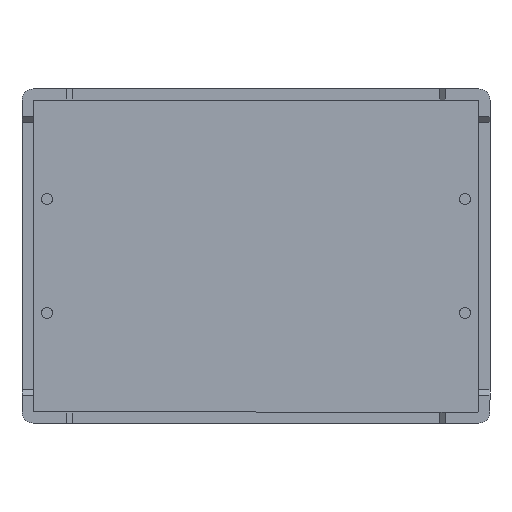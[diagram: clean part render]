
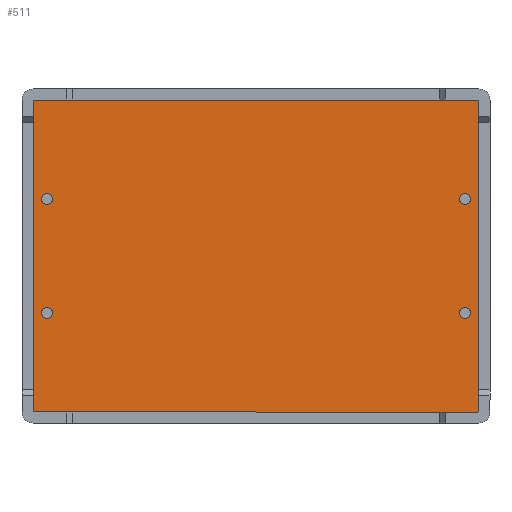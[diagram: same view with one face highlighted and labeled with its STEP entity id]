
A CAD part, front view. The second image highlights one B-rep face of the part: STEP entity #511.
In plain terms, the highlighted planar face has unit normal (0, -1, 0).
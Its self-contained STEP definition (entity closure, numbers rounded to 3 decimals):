
#16 = CARTESIAN_POINT ( 'NONE',  ( 19.9, 1., -14. ) ) ;
#24 = EDGE_CURVE ( 'NONE', #3195, #2917, #1218, .T. ) ;
#68 = EDGE_CURVE ( 'NONE', #3427, #2869, #1055, .T. ) ;
#91 = EDGE_CURVE ( 'NONE', #4298, #3296, #886, .T. ) ;
#126 = CIRCLE ( 'NONE', #2901, 0.5 ) ;
#146 = EDGE_CURVE ( 'NONE', #1792, #3026, #713, .T. ) ;
#172 = EDGE_CURVE ( 'NONE', #2814, #2207, #634, .T. ) ;
#182 = EDGE_CURVE ( 'NONE', #2458, #1996, #653, .T. ) ;
#187 = EDGE_CURVE ( 'NONE', #3961, #2651, #583, .T. ) ;
#192 = EDGE_CURVE ( 'NONE', #4487, #1514, #566, .T. ) ;
#197 = EDGE_CURVE ( 'NONE', #3026, #4298, #523, .T. ) ;
#203 = EDGE_CURVE ( 'NONE', #3296, #3427, #517, .T. ) ;
#211 = EDGE_CURVE ( 'NONE', #2869, #3195, #474, .T. ) ;
#217 = EDGE_CURVE ( 'NONE', #2917, #1792, #501, .T. ) ;
#270 = CARTESIAN_POINT ( 'NONE',  ( 0., 1., 0. ) ) ;
#333 = DIRECTION ( 'NONE',  ( 0., -1., 0. ) ) ;
#337 = CARTESIAN_POINT ( 'NONE',  ( -20., 1., -13.9 ) ) ;
#414 = DIRECTION ( 'NONE',  ( 0., 0., -1. ) ) ;
#474 = CIRCLE ( 'NONE', #2332, 0.1 ) ;
#490 = AXIS2_PLACEMENT_3D ( 'NONE', #3137, #3134, #3124 ) ;
#501 = CIRCLE ( 'NONE', #2563, 0.1 ) ;
#511 = ADVANCED_FACE ( 'NONE', ( #1436, #1254, #1632, #1269, #1421 ), #3163, .T. ) ;
#517 = CIRCLE ( 'NONE', #2097, 0.1 ) ;
#523 = CIRCLE ( 'NONE', #1858, 0.1 ) ;
#566 = CIRCLE ( 'NONE', #1621, 0.5 ) ;
#583 = CIRCLE ( 'NONE', #1122, 0.5 ) ;
#634 = CIRCLE ( 'NONE', #490, 0.5 ) ;
#645 = CIRCLE ( 'NONE', #680, 0.5 ) ;
#653 = CIRCLE ( 'NONE', #834, 0.5 ) ;
#662 = DIRECTION ( 'NONE',  ( 1., 0., 0. ) ) ;
#680 = AXIS2_PLACEMENT_3D ( 'NONE', #1954, #4160, #2315 ) ;
#688 = VECTOR ( 'NONE', #3335, 1000. ) ;
#699 = CARTESIAN_POINT ( 'NONE',  ( 18.75, 1., -4.6 ) ) ;
#713 = LINE ( 'NONE', #3358, #688 ) ;
#803 = CARTESIAN_POINT ( 'NONE',  ( -18.75, 1., 5.6 ) ) ;
#834 = AXIS2_PLACEMENT_3D ( 'NONE', #3113, #3101, #3097 ) ;
#872 = VECTOR ( 'NONE', #662, 1000. ) ;
#886 = LINE ( 'NONE', #1448, #872 ) ;
#890 = EDGE_CURVE ( 'NONE', #1996, #2458, #3596, .T. ) ;
#905 = CARTESIAN_POINT ( 'NONE',  ( -19.9, 1., -14. ) ) ;
#1017 = VECTOR ( 'NONE', #1437, 1000. ) ;
#1055 = LINE ( 'NONE', #1565, #1017 ) ;
#1122 = AXIS2_PLACEMENT_3D ( 'NONE', #3042, #3033, #3024 ) ;
#1139 = VECTOR ( 'NONE', #2939, 1000. ) ;
#1218 = LINE ( 'NONE', #2889, #1139 ) ;
#1254 = FACE_BOUND ( 'NONE', #2018, .T. ) ;
#1269 = FACE_BOUND ( 'NONE', #2063, .T. ) ;
#1349 = EDGE_CURVE ( 'NONE', #2651, #3961, #645, .T. ) ;
#1421 = FACE_OUTER_BOUND ( 'NONE', #1892, .T. ) ;
#1436 = FACE_BOUND ( 'NONE', #2050, .T. ) ;
#1437 = DIRECTION ( 'NONE',  ( 0., 0., 1. ) ) ;
#1448 = CARTESIAN_POINT ( 'NONE',  ( -20., 1., -14. ) ) ;
#1514 = VERTEX_POINT ( 'NONE', #2005 ) ;
#1548 = CARTESIAN_POINT ( 'NONE',  ( -18.75, 1., 4.6 ) ) ;
#1565 = CARTESIAN_POINT ( 'NONE',  ( 20., 1., -14. ) ) ;
#1602 = CARTESIAN_POINT ( 'NONE',  ( 20., 1., 13.9 ) ) ;
#1615 = CARTESIAN_POINT ( 'NONE',  ( 18.75, 1., -5.1 ) ) ;
#1621 = AXIS2_PLACEMENT_3D ( 'NONE', #2884, #2879, #2874 ) ;
#1632 = FACE_BOUND ( 'NONE', #2093, .T. ) ;
#1676 = CARTESIAN_POINT ( 'NONE',  ( 19.9, 1., 14. ) ) ;
#1792 = VERTEX_POINT ( 'NONE', #2068 ) ;
#1858 = AXIS2_PLACEMENT_3D ( 'NONE', #2832, #2816, #2803 ) ;
#1892 = EDGE_LOOP ( 'NONE', ( #2805, #2853, #2857, #2883, #2893, #2904, #2920, #2924 ) ) ;
#1954 = CARTESIAN_POINT ( 'NONE',  ( -18.75, 1., 5.1 ) ) ;
#1957 = DIRECTION ( 'NONE',  ( 0., 0., -1. ) ) ;
#1996 = VERTEX_POINT ( 'NONE', #2099 ) ;
#2005 = CARTESIAN_POINT ( 'NONE',  ( -18.75, 1., -5.6 ) ) ;
#2018 = EDGE_LOOP ( 'NONE', ( #2642, #2646 ) ) ;
#2050 = EDGE_LOOP ( 'NONE', ( #2612, #2621 ) ) ;
#2063 = EDGE_LOOP ( 'NONE', ( #2676, #2754 ) ) ;
#2068 = CARTESIAN_POINT ( 'NONE',  ( -20., 1., 13.9 ) ) ;
#2093 = EDGE_LOOP ( 'NONE', ( #2656, #2665 ) ) ;
#2097 = AXIS2_PLACEMENT_3D ( 'NONE', #2770, #2764, #2763 ) ;
#2099 = CARTESIAN_POINT ( 'NONE',  ( 18.75, 1., -5.6 ) ) ;
#2207 = VERTEX_POINT ( 'NONE', #4324 ) ;
#2315 = DIRECTION ( 'NONE',  ( 0., 0., -1. ) ) ;
#2332 = AXIS2_PLACEMENT_3D ( 'NONE', #2752, #2748, #2741 ) ;
#2458 = VERTEX_POINT ( 'NONE', #699 ) ;
#2563 = AXIS2_PLACEMENT_3D ( 'NONE', #2698, #2695, #2692 ) ;
#2612 = ORIENTED_EDGE ( 'NONE', *, *, #172, .F. ) ;
#2621 = ORIENTED_EDGE ( 'NONE', *, *, #4344, .F. ) ;
#2642 = ORIENTED_EDGE ( 'NONE', *, *, #182, .F. ) ;
#2646 = ORIENTED_EDGE ( 'NONE', *, *, #890, .F. ) ;
#2651 = VERTEX_POINT ( 'NONE', #1548 ) ;
#2656 = ORIENTED_EDGE ( 'NONE', *, *, #187, .F. ) ;
#2665 = ORIENTED_EDGE ( 'NONE', *, *, #1349, .F. ) ;
#2669 = CARTESIAN_POINT ( 'NONE',  ( -18.75, 1., -5.1 ) ) ;
#2676 = ORIENTED_EDGE ( 'NONE', *, *, #192, .F. ) ;
#2692 = DIRECTION ( 'NONE',  ( 0., 0., -1. ) ) ;
#2695 = DIRECTION ( 'NONE',  ( 0., -1., 0. ) ) ;
#2698 = CARTESIAN_POINT ( 'NONE',  ( -19.9, 1., 13.9 ) ) ;
#2728 = DIRECTION ( 'NONE',  ( 0., -1., 0. ) ) ;
#2741 = DIRECTION ( 'NONE',  ( 0., 0., -1. ) ) ;
#2748 = DIRECTION ( 'NONE',  ( 0., -1., 0. ) ) ;
#2752 = CARTESIAN_POINT ( 'NONE',  ( 19.9, 1., 13.9 ) ) ;
#2754 = ORIENTED_EDGE ( 'NONE', *, *, #4073, .F. ) ;
#2763 = DIRECTION ( 'NONE',  ( 0., 0., -1. ) ) ;
#2764 = DIRECTION ( 'NONE',  ( 0., -1., 0. ) ) ;
#2770 = CARTESIAN_POINT ( 'NONE',  ( 19.9, 1., -13.9 ) ) ;
#2803 = DIRECTION ( 'NONE',  ( 0., 0., -1. ) ) ;
#2805 = ORIENTED_EDGE ( 'NONE', *, *, #146, .T. ) ;
#2814 = VERTEX_POINT ( 'NONE', #3248 ) ;
#2816 = DIRECTION ( 'NONE',  ( 0., -1., 0. ) ) ;
#2819 = AXIS2_PLACEMENT_3D ( 'NONE', #270, #3343, #2876 ) ;
#2832 = CARTESIAN_POINT ( 'NONE',  ( -19.9, 1., -13.9 ) ) ;
#2853 = ORIENTED_EDGE ( 'NONE', *, *, #197, .T. ) ;
#2857 = ORIENTED_EDGE ( 'NONE', *, *, #91, .T. ) ;
#2869 = VERTEX_POINT ( 'NONE', #1602 ) ;
#2874 = DIRECTION ( 'NONE',  ( 0., 0., -1. ) ) ;
#2876 = DIRECTION ( 'NONE',  ( 0., 0., -1. ) ) ;
#2879 = DIRECTION ( 'NONE',  ( 0., -1., 0. ) ) ;
#2883 = ORIENTED_EDGE ( 'NONE', *, *, #203, .T. ) ;
#2884 = CARTESIAN_POINT ( 'NONE',  ( -18.75, 1., -5.1 ) ) ;
#2889 = CARTESIAN_POINT ( 'NONE',  ( 20., 1., 14. ) ) ;
#2893 = ORIENTED_EDGE ( 'NONE', *, *, #68, .T. ) ;
#2901 = AXIS2_PLACEMENT_3D ( 'NONE', #2669, #333, #3002 ) ;
#2904 = ORIENTED_EDGE ( 'NONE', *, *, #211, .T. ) ;
#2917 = VERTEX_POINT ( 'NONE', #4427 ) ;
#2920 = ORIENTED_EDGE ( 'NONE', *, *, #24, .T. ) ;
#2924 = ORIENTED_EDGE ( 'NONE', *, *, #217, .T. ) ;
#2939 = DIRECTION ( 'NONE',  ( -1., 0., 0. ) ) ;
#3002 = DIRECTION ( 'NONE',  ( 0., 0., -1. ) ) ;
#3024 = DIRECTION ( 'NONE',  ( 0., 0., -1. ) ) ;
#3026 = VERTEX_POINT ( 'NONE', #337 ) ;
#3033 = DIRECTION ( 'NONE',  ( 0., -1., 0. ) ) ;
#3042 = CARTESIAN_POINT ( 'NONE',  ( -18.75, 1., 5.1 ) ) ;
#3080 = CARTESIAN_POINT ( 'NONE',  ( -18.75, 1., -4.6 ) ) ;
#3097 = DIRECTION ( 'NONE',  ( 0., 0., -1. ) ) ;
#3101 = DIRECTION ( 'NONE',  ( 0., -1., 0. ) ) ;
#3113 = CARTESIAN_POINT ( 'NONE',  ( 18.75, 1., -5.1 ) ) ;
#3124 = DIRECTION ( 'NONE',  ( 0., 0., -1. ) ) ;
#3134 = DIRECTION ( 'NONE',  ( 0., -1., 0. ) ) ;
#3137 = CARTESIAN_POINT ( 'NONE',  ( 18.75, 1., 5.1 ) ) ;
#3163 = PLANE ( 'NONE',  #2819 ) ;
#3195 = VERTEX_POINT ( 'NONE', #1676 ) ;
#3248 = CARTESIAN_POINT ( 'NONE',  ( 18.75, 1., 5.6 ) ) ;
#3296 = VERTEX_POINT ( 'NONE', #16 ) ;
#3300 = AXIS2_PLACEMENT_3D ( 'NONE', #4492, #2728, #414 ) ;
#3335 = DIRECTION ( 'NONE',  ( 0., 0., -1. ) ) ;
#3343 = DIRECTION ( 'NONE',  ( 0., -1., 0. ) ) ;
#3358 = CARTESIAN_POINT ( 'NONE',  ( -20., 1., 14. ) ) ;
#3374 = AXIS2_PLACEMENT_3D ( 'NONE', #1615, #3879, #1957 ) ;
#3427 = VERTEX_POINT ( 'NONE', #3701 ) ;
#3596 = CIRCLE ( 'NONE', #3374, 0.5 ) ;
#3636 = CIRCLE ( 'NONE', #3300, 0.5 ) ;
#3701 = CARTESIAN_POINT ( 'NONE',  ( 20., 1., -13.9 ) ) ;
#3879 = DIRECTION ( 'NONE',  ( 0., -1., 0. ) ) ;
#3961 = VERTEX_POINT ( 'NONE', #803 ) ;
#4073 = EDGE_CURVE ( 'NONE', #1514, #4487, #126, .T. ) ;
#4160 = DIRECTION ( 'NONE',  ( 0., -1., 0. ) ) ;
#4298 = VERTEX_POINT ( 'NONE', #905 ) ;
#4324 = CARTESIAN_POINT ( 'NONE',  ( 18.75, 1., 4.6 ) ) ;
#4344 = EDGE_CURVE ( 'NONE', #2207, #2814, #3636, .T. ) ;
#4427 = CARTESIAN_POINT ( 'NONE',  ( -19.9, 1., 14. ) ) ;
#4487 = VERTEX_POINT ( 'NONE', #3080 ) ;
#4492 = CARTESIAN_POINT ( 'NONE',  ( 18.75, 1., 5.1 ) ) ;
